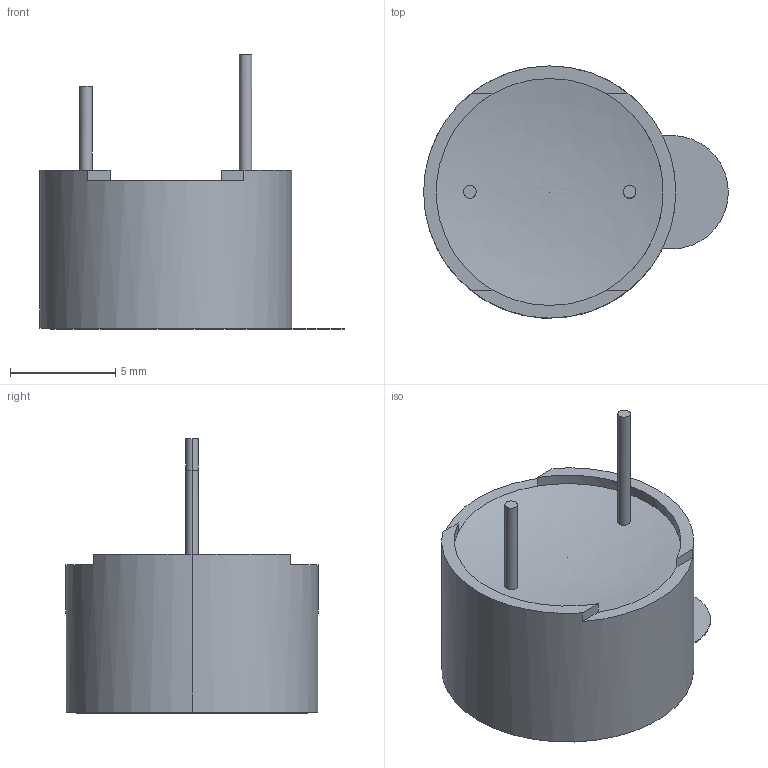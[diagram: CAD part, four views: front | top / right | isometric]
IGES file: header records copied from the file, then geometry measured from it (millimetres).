
Global section: file name: No Iges File Name specified; native system: AutoDesk Inventor R12.0; preprocessor: AutoDesk Inventor Iges Exporter R12.0; date: 20090219.081729; units: millimetre
Bounding box: 14.5 x 12 x 13.05 mm (x, y, z)
Volume: 494.4 mm3; surface area: 861.1 mm2
Topology: 1 solids, 2 shells, 33 faces, 76 edges, 48 vertices
Faces by surface type: plane 18, cylinder 8, revolution 6, bspline 1
